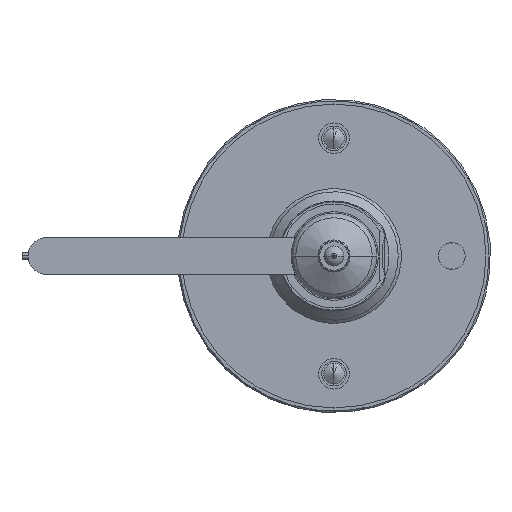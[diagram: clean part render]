
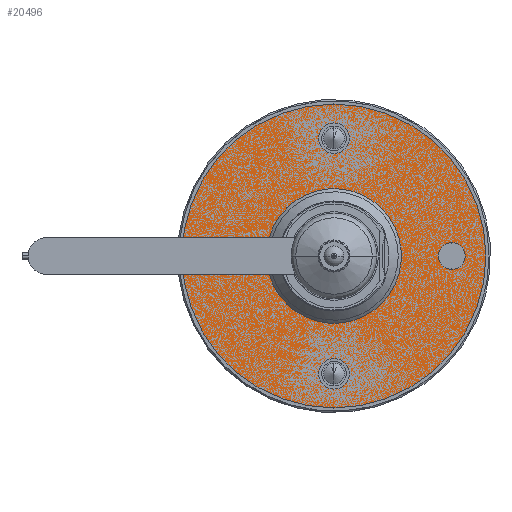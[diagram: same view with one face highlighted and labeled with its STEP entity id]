
A CAD part, front view. The second image highlights one B-rep face of the part: STEP entity #20496.
In plain terms, the highlighted planar face has unit normal (0, -1, 0) as drawn and (0, 0, -1) by its records, which use the part's own axes.
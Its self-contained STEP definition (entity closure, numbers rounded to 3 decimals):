
#458 = DIRECTION ( 'NONE',  ( 1., 0., 0. ) ) ;
#538 = AXIS2_PLACEMENT_3D ( 'NONE', #25994, #5014, #18451 ) ;
#852 = EDGE_CURVE ( 'NONE', #2082, #14046, #998, .T. ) ;
#879 = CIRCLE ( 'NONE', #3354, 16.5 ) ;
#998 = CIRCLE ( 'NONE', #11845, 5. ) ;
#1217 = PLANE ( 'NONE',  #5617 ) ;
#1349 = ORIENTED_EDGE ( 'NONE', *, *, #4736, .T. ) ;
#1535 = ORIENTED_EDGE ( 'NONE', *, *, #13133, .T. ) ;
#1954 = CARTESIAN_POINT ( 'NONE',  ( 49.675, 0., 0. ) ) ;
#1970 = AXIS2_PLACEMENT_3D ( 'NONE', #9581, #26052, #16657 ) ;
#2082 = VERTEX_POINT ( 'NONE', #29934 ) ;
#2225 = CARTESIAN_POINT ( 'NONE',  ( 38.5, 0., 0. ) ) ;
#2434 = CARTESIAN_POINT ( 'NONE',  ( -33.5, 0., 0. ) ) ;
#2931 = DIRECTION ( 'NONE',  ( 0., 0., 1. ) ) ;
#2936 = EDGE_LOOP ( 'NONE', ( #28821, #27325 ) ) ;
#2964 = VERTEX_POINT ( 'NONE', #21353 ) ;
#3066 = AXIS2_PLACEMENT_3D ( 'NONE', #20814, #10989, #13600 ) ;
#3354 = AXIS2_PLACEMENT_3D ( 'NONE', #29399, #15394, #19842 ) ;
#3407 = DIRECTION ( 'NONE',  ( -1., 0., 0. ) ) ;
#3570 = CARTESIAN_POINT ( 'NONE',  ( 16.5, 0., 0. ) ) ;
#3600 = CARTESIAN_POINT ( 'NONE',  ( -38.5, 0., 0. ) ) ;
#3672 = VERTEX_POINT ( 'NONE', #20585 ) ;
#3971 = EDGE_LOOP ( 'NONE', ( #11123, #19546 ) ) ;
#4045 = ORIENTED_EDGE ( 'NONE', *, *, #4184, .T. ) ;
#4184 = EDGE_CURVE ( 'NONE', #14154, #14201, #879, .T. ) ;
#4736 = EDGE_CURVE ( 'NONE', #3672, #24184, #24073, .T. ) ;
#5014 = DIRECTION ( 'NONE',  ( 0., 0., -1. ) ) ;
#5117 = CARTESIAN_POINT ( 'NONE',  ( 43.5, 0., 0. ) ) ;
#5193 = DIRECTION ( 'NONE',  ( 0., 0., 1. ) ) ;
#5617 = AXIS2_PLACEMENT_3D ( 'NONE', #22507, #22650, #18027 ) ;
#5852 = AXIS2_PLACEMENT_3D ( 'NONE', #27440, #16021, #27884 ) ;
#6180 = AXIS2_PLACEMENT_3D ( 'NONE', #21588, #19136, #458 ) ;
#6445 = CARTESIAN_POINT ( 'NONE',  ( -4.4, 38.5, 0. ) ) ;
#6505 = VERTEX_POINT ( 'NONE', #16789 ) ;
#6733 = AXIS2_PLACEMENT_3D ( 'NONE', #7679, #5193, #12945 ) ;
#7038 = AXIS2_PLACEMENT_3D ( 'NONE', #23049, #2931, #14235 ) ;
#7679 = CARTESIAN_POINT ( 'NONE',  ( -38.5, 0., 0. ) ) ;
#7805 = EDGE_CURVE ( 'NONE', #18612, #2964, #23168, .T. ) ;
#9214 = CIRCLE ( 'NONE', #20040, 49.675 ) ;
#9581 = CARTESIAN_POINT ( 'NONE',  ( 0., 38.5, 0. ) ) ;
#9634 = EDGE_LOOP ( 'NONE', ( #1349, #20116 ) ) ;
#10698 = DIRECTION ( 'NONE',  ( 0., 0., -1. ) ) ;
#10989 = DIRECTION ( 'NONE',  ( 0., 0., 1. ) ) ;
#11123 = ORIENTED_EDGE ( 'NONE', *, *, #30439, .T. ) ;
#11845 = AXIS2_PLACEMENT_3D ( 'NONE', #2225, #23666, #18897 ) ;
#12499 = CIRCLE ( 'NONE', #7038, 5. ) ;
#12678 = CIRCLE ( 'NONE', #19043, 4.4 ) ;
#12945 = DIRECTION ( 'NONE',  ( -1., 0., 0. ) ) ;
#13133 = EDGE_CURVE ( 'NONE', #14046, #2082, #12499, .T. ) ;
#13494 = DIRECTION ( 'NONE',  ( -1., 0., 0. ) ) ;
#13600 = DIRECTION ( 'NONE',  ( -1., 0., 0. ) ) ;
#14046 = VERTEX_POINT ( 'NONE', #5117 ) ;
#14154 = VERTEX_POINT ( 'NONE', #3570 ) ;
#14166 = EDGE_LOOP ( 'NONE', ( #16363, #29755 ) ) ;
#14201 = VERTEX_POINT ( 'NONE', #25268 ) ;
#14230 = VERTEX_POINT ( 'NONE', #1954 ) ;
#14235 = DIRECTION ( 'NONE',  ( -1., 0., 0. ) ) ;
#14414 = CIRCLE ( 'NONE', #3066, 4.4 ) ;
#14445 = AXIS2_PLACEMENT_3D ( 'NONE', #3600, #24740, #20699 ) ;
#15394 = DIRECTION ( 'NONE',  ( 0., 0., 1. ) ) ;
#15430 = FACE_BOUND ( 'NONE', #3971, .T. ) ;
#15963 = EDGE_LOOP ( 'NONE', ( #4045, #20514 ) ) ;
#16021 = DIRECTION ( 'NONE',  ( 0., 0., 1. ) ) ;
#16363 = ORIENTED_EDGE ( 'NONE', *, *, #29588, .T. ) ;
#16428 = EDGE_CURVE ( 'NONE', #6505, #14230, #27180, .T. ) ;
#16486 = ORIENTED_EDGE ( 'NONE', *, *, #852, .T. ) ;
#16657 = DIRECTION ( 'NONE',  ( -1., 0., 0. ) ) ;
#16789 = CARTESIAN_POINT ( 'NONE',  ( -49.675, 0., 0. ) ) ;
#17733 = FACE_BOUND ( 'NONE', #15963, .T. ) ;
#18027 = DIRECTION ( 'NONE',  ( -1., 0., 0. ) ) ;
#18444 = EDGE_CURVE ( 'NONE', #25730, #29535, #27710, .T. ) ;
#18451 = DIRECTION ( 'NONE',  ( -1., 0., 0. ) ) ;
#18612 = VERTEX_POINT ( 'NONE', #6445 ) ;
#18897 = DIRECTION ( 'NONE',  ( -1., 0., 0. ) ) ;
#19043 = AXIS2_PLACEMENT_3D ( 'NONE', #27644, #27501, #13494 ) ;
#19136 = DIRECTION ( 'NONE',  ( 0., 0., 1. ) ) ;
#19546 = ORIENTED_EDGE ( 'NONE', *, *, #18444, .T. ) ;
#19842 = DIRECTION ( 'NONE',  ( 1., 0., 0. ) ) ;
#20040 = AXIS2_PLACEMENT_3D ( 'NONE', #24546, #10698, #3407 ) ;
#20116 = ORIENTED_EDGE ( 'NONE', *, *, #22504, .T. ) ;
#20496 = ADVANCED_FACE ( 'NONE', ( #21564, #24040, #24967, #29734, #15430, #17733 ), #1217, .T. ) ;
#20514 = ORIENTED_EDGE ( 'NONE', *, *, #26775, .T. ) ;
#20585 = CARTESIAN_POINT ( 'NONE',  ( -4.4, -38.5, 0. ) ) ;
#20699 = DIRECTION ( 'NONE',  ( -1., 0., 0. ) ) ;
#20814 = CARTESIAN_POINT ( 'NONE',  ( 0., -38.5, 0. ) ) ;
#21353 = CARTESIAN_POINT ( 'NONE',  ( 4.4, 38.5, 0. ) ) ;
#21564 = FACE_OUTER_BOUND ( 'NONE', #14166, .T. ) ;
#21588 = CARTESIAN_POINT ( 'NONE',  ( 0., 0., 0. ) ) ;
#21755 = EDGE_LOOP ( 'NONE', ( #16486, #1535 ) ) ;
#22410 = CARTESIAN_POINT ( 'NONE',  ( 4.4, -38.5, 0. ) ) ;
#22504 = EDGE_CURVE ( 'NONE', #24184, #3672, #14414, .T. ) ;
#22507 = CARTESIAN_POINT ( 'NONE',  ( 16.5, 0., 0. ) ) ;
#22650 = DIRECTION ( 'NONE',  ( 0., 0., -1. ) ) ;
#23049 = CARTESIAN_POINT ( 'NONE',  ( 38.5, 0., 0. ) ) ;
#23168 = CIRCLE ( 'NONE', #1970, 4.4 ) ;
#23666 = DIRECTION ( 'NONE',  ( 0., 0., 1. ) ) ;
#24040 = FACE_BOUND ( 'NONE', #9634, .T. ) ;
#24073 = CIRCLE ( 'NONE', #5852, 4.4 ) ;
#24184 = VERTEX_POINT ( 'NONE', #22410 ) ;
#24397 = CIRCLE ( 'NONE', #6180, 16.5 ) ;
#24398 = CARTESIAN_POINT ( 'NONE',  ( -43.5, 0., 0. ) ) ;
#24546 = CARTESIAN_POINT ( 'NONE',  ( 0., 0., 0. ) ) ;
#24740 = DIRECTION ( 'NONE',  ( 0., 0., 1. ) ) ;
#24967 = FACE_BOUND ( 'NONE', #2936, .T. ) ;
#25268 = CARTESIAN_POINT ( 'NONE',  ( -16.5, 0., 0. ) ) ;
#25730 = VERTEX_POINT ( 'NONE', #2434 ) ;
#25994 = CARTESIAN_POINT ( 'NONE',  ( 0., 0., 0. ) ) ;
#26052 = DIRECTION ( 'NONE',  ( 0., 0., 1. ) ) ;
#26775 = EDGE_CURVE ( 'NONE', #14201, #14154, #24397, .T. ) ;
#27180 = CIRCLE ( 'NONE', #538, 49.675 ) ;
#27325 = ORIENTED_EDGE ( 'NONE', *, *, #29416, .T. ) ;
#27440 = CARTESIAN_POINT ( 'NONE',  ( 0., -38.5, 0. ) ) ;
#27501 = DIRECTION ( 'NONE',  ( 0., 0., 1. ) ) ;
#27644 = CARTESIAN_POINT ( 'NONE',  ( 0., 38.5, 0. ) ) ;
#27710 = CIRCLE ( 'NONE', #14445, 5. ) ;
#27884 = DIRECTION ( 'NONE',  ( -1., 0., 0. ) ) ;
#28427 = CIRCLE ( 'NONE', #6733, 5. ) ;
#28821 = ORIENTED_EDGE ( 'NONE', *, *, #7805, .T. ) ;
#29399 = CARTESIAN_POINT ( 'NONE',  ( 0., 0., 0. ) ) ;
#29416 = EDGE_CURVE ( 'NONE', #2964, #18612, #12678, .T. ) ;
#29535 = VERTEX_POINT ( 'NONE', #24398 ) ;
#29588 = EDGE_CURVE ( 'NONE', #14230, #6505, #9214, .T. ) ;
#29734 = FACE_BOUND ( 'NONE', #21755, .T. ) ;
#29755 = ORIENTED_EDGE ( 'NONE', *, *, #16428, .T. ) ;
#29934 = CARTESIAN_POINT ( 'NONE',  ( 33.5, 0., 0. ) ) ;
#30439 = EDGE_CURVE ( 'NONE', #29535, #25730, #28427, .T. ) ;
